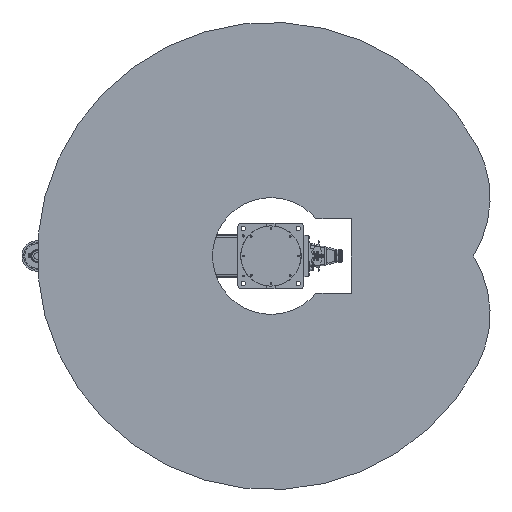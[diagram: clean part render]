
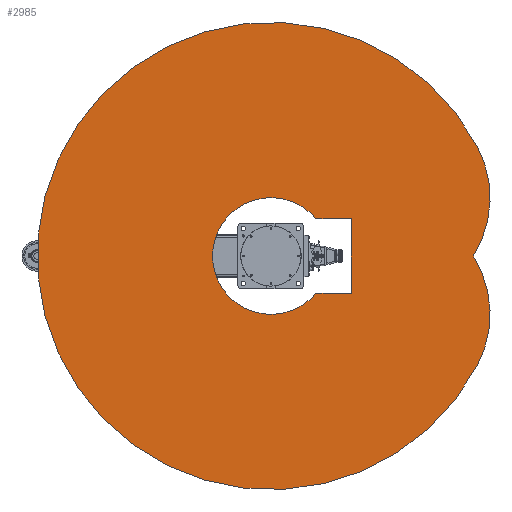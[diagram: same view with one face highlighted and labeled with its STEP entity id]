
A CAD part, front view. The second image highlights one B-rep face of the part: STEP entity #2985.
In plain terms, the highlighted planar face has unit normal (0, -1, 0).
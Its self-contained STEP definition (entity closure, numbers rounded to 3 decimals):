
#2985 = ADVANCED_FACE( '', ( #8364, #8365 ), #8366, .F. );
#8364 = FACE_BOUND( '', #17164, .T. );
#8365 = FACE_OUTER_BOUND( '', #17165, .T. );
#8366 = PLANE( '', #17166 );
#17164 = EDGE_LOOP( '', ( #27889, #27890, #27891, #27892 ) );
#17165 = EDGE_LOOP( '', ( #27893, #27894, #27895 ) );
#17166 = AXIS2_PLACEMENT_3D( '', #27896, #27897, #27898 );
#27889 = ORIENTED_EDGE( '', *, *, #48191, .T. );
#27890 = ORIENTED_EDGE( '', *, *, #48385, .T. );
#27891 = ORIENTED_EDGE( '', *, *, #48386, .T. );
#27892 = ORIENTED_EDGE( '', *, *, #48387, .T. );
#27893 = ORIENTED_EDGE( '', *, *, #48388, .F. );
#27894 = ORIENTED_EDGE( '', *, *, #48389, .F. );
#27895 = ORIENTED_EDGE( '', *, *, #48390, .F. );
#27896 = CARTESIAN_POINT( '', ( 105.631, 0., 198.663 ) );
#27897 = DIRECTION( '', ( 0., 1., 0. ) );
#27898 = DIRECTION( '', ( 0., 0., 1. ) );
#48191 = EDGE_CURVE( '', #56756, #56757, #56758, .T. );
#48385 = EDGE_CURVE( '', #56757, #57102, #57103, .T. );
#48386 = EDGE_CURVE( '', #57102, #57104, #57105, .T. );
#48387 = EDGE_CURVE( '', #57104, #56756, #57106, .T. );
#48388 = EDGE_CURVE( '', #57107, #57108, #57109, .T. );
#48389 = EDGE_CURVE( '', #57110, #57107, #57111, .T. );
#48390 = EDGE_CURVE( '', #57108, #57110, #57112, .T. );
#56756 = VERTEX_POINT( '', #69434 );
#56757 = VERTEX_POINT( '', #69435 );
#56758 = LINE( '', #69436, #69437 );
#57102 = VERTEX_POINT( '', #70013 );
#57103 = CIRCLE( '', #70014, 212.4 );
#57104 = VERTEX_POINT( '', #70015 );
#57105 = LINE( '', #70016, #70017 );
#57106 = LINE( '', #70018, #70019 );
#57107 = VERTEX_POINT( '', #70020 );
#57108 = VERTEX_POINT( '', #70021 );
#57109 = CIRCLE( '', #70022, 400. );
#57110 = VERTEX_POINT( '', #70023 );
#57111 = CIRCLE( '', #70024, 400. );
#57112 = CIRCLE( '', #70025, 850. );
#69434 = CARTESIAN_POINT( '', ( 135., 0., 292. ) );
#69435 = CARTESIAN_POINT( '', ( 135., 0., 163.978 ) );
#69436 = CARTESIAN_POINT( '', ( 135., 0., 292. ) );
#69437 = VECTOR( '', #87855, 1000. );
#70013 = CARTESIAN_POINT( '', ( -135., 0., 163.978 ) );
#70014 = AXIS2_PLACEMENT_3D( '', #88083, #88084, #88085 );
#70015 = CARTESIAN_POINT( '', ( -135., 0., 292. ) );
#70016 = CARTESIAN_POINT( '', ( -135., 0., 163.978 ) );
#70017 = VECTOR( '', #88086, 1000. );
#70018 = CARTESIAN_POINT( '', ( -135., 0., 292. ) );
#70019 = VECTOR( '', #88087, 1000. );
#70020 = CARTESIAN_POINT( '', ( 0., 0., 736.985 ) );
#70021 = CARTESIAN_POINT( '', ( 399.051, 0., 750.505 ) );
#70022 = AXIS2_PLACEMENT_3D( '', #88088, #88089, #88090 );
#70023 = CARTESIAN_POINT( '', ( -399.051, 0., 750.505 ) );
#70024 = AXIS2_PLACEMENT_3D( '', #88091, #88092, #88093 );
#70025 = AXIS2_PLACEMENT_3D( '', #88094, #88095, #88096 );
#87855 = DIRECTION( '', ( 0., 0., -1. ) );
#88083 = CARTESIAN_POINT( '', ( 0., 0., 0. ) );
#88084 = DIRECTION( '', ( 0., 1., 0. ) );
#88085 = DIRECTION( '', ( 1., 0., 0. ) );
#88086 = DIRECTION( '', ( 0., 0., 1. ) );
#88087 = DIRECTION( '', ( 1., 0., 0. ) );
#88088 = CARTESIAN_POINT( '', ( 211.262, 0., 397.326 ) );
#88089 = DIRECTION( '', ( 0., 1., 0. ) );
#88090 = DIRECTION( '', ( 1., 0., 0. ) );
#88091 = CARTESIAN_POINT( '', ( -211.262, 0., 397.326 ) );
#88092 = DIRECTION( '', ( 0., 1., 0. ) );
#88093 = DIRECTION( '', ( 1., 0., 0. ) );
#88094 = CARTESIAN_POINT( '', ( 0., 0., 0. ) );
#88095 = DIRECTION( '', ( 0., 1., 0. ) );
#88096 = DIRECTION( '', ( 1., 0., 0. ) );
